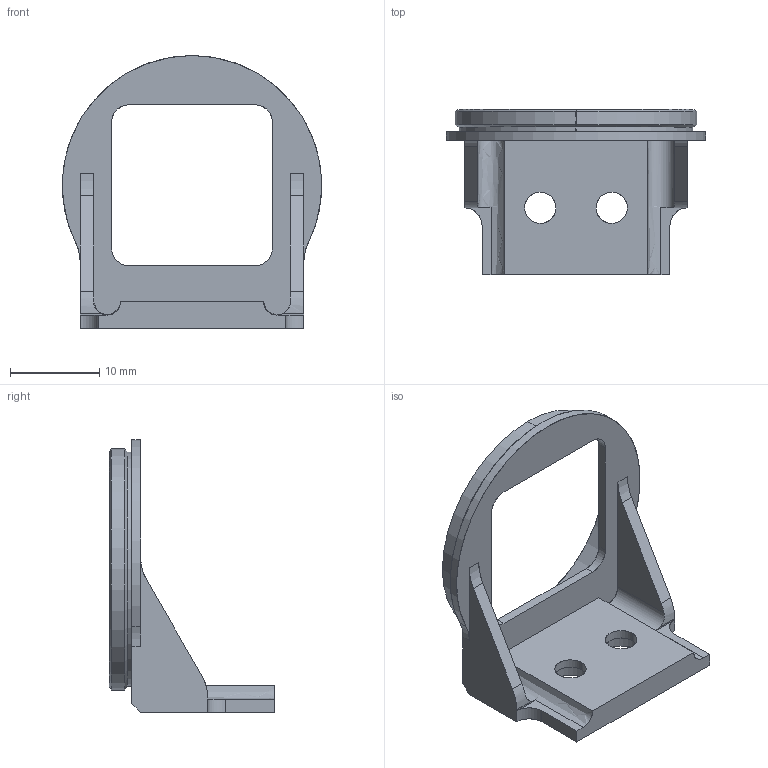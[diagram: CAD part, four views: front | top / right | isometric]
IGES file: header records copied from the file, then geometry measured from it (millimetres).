
Start section: SolidWorks IGES file using analytic representation for surfaces
Global section: file name: C:\Users\user\Downloads\tmp5qz26nmw\BK?VCOBS1513-TCH110_Drawing_T1302A-A00100.SLDPRT.IGS; native system: SolidWorks 2018; preprocessor: SolidWorks 2018; author: user; date: 250425.152751; units: millimetre
Bounding box: 28.96 x 18.5 x 30.5 mm (x, y, z)
Surface area: 2497.6 mm2 (no closed solid volume)
Topology: 0 solids, 0 shells, 59 faces, 888 edges, 888 vertices
Faces by surface type: revolution 33, bspline 26
